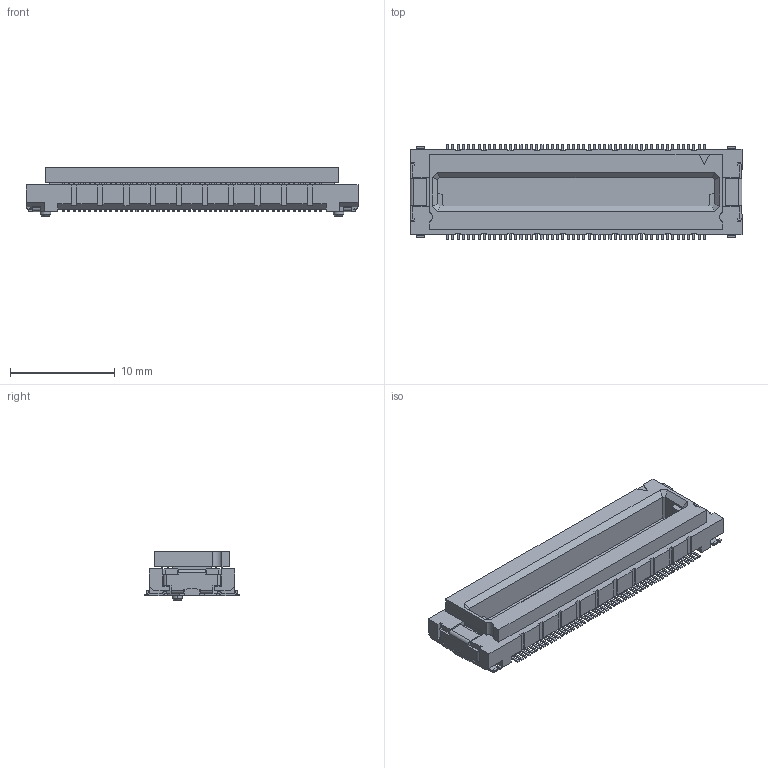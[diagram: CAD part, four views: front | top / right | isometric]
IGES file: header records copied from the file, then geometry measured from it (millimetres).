
Start section: Elysium IGES Interface
Global section: file name: 130HG:\その他\DY関連\CAD\（作り直し）Webリニューアル対応\DY01-XXXS     _(STEP／IGES形式_回覧No.56-36-0003)\①IGES\P39563_DY01-100S.igs; native system: Creo Elements/Direct Modeling 19.0F  14-Feb-2017; preprocessor: Creo Element/Direct IGES_3D V2.2; author: Unknown; organization: Unknown; date: 20170810.142555; units: millimetre
Bounding box: 31.7 x 9 x 4.65 mm (x, y, z)
Volume: 662.8 mm3; surface area: 1432.4 mm2
Topology: 1 solids, 1 shells, 3059 faces, 8543 edges, 5690 vertices
Faces by surface type: bspline 3059
